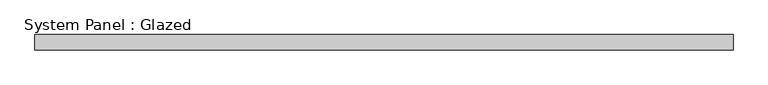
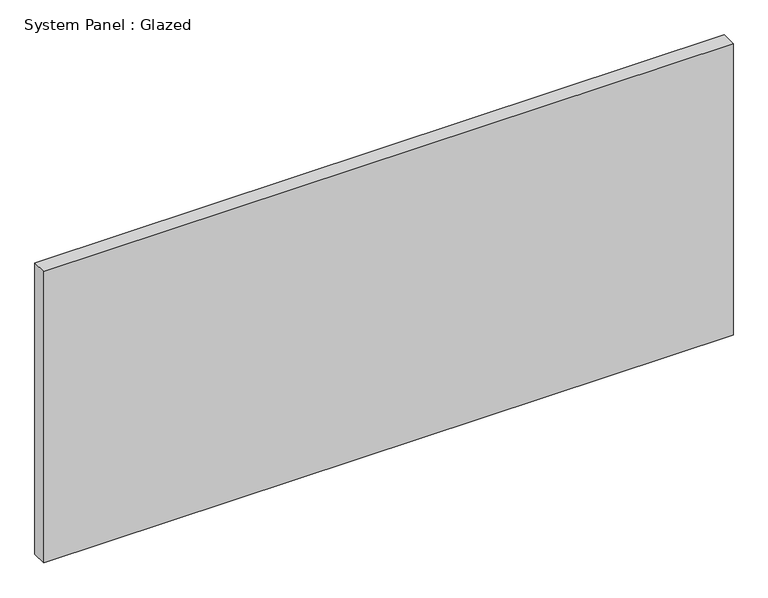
"""IFC4 building model written with IfcOpenShell, lengths in millimetres: plate geometry, System Panel : Glazed."""

from ifc_helpers import new_model, si_unit, origin, origin_with_axes, place, context, project, spatial, polyline, outline, extrude, source, transform, mapped, element, save


def system_panel_glazed_89e5f45a(model_context):
    return source(origin(), model_context, "Body", "SweptSolid", [
        extrude(outline(polyline([(575.3100001, 19.05), (-575.3100001, 19.05), (-575.3100001, 44.45), (575.3100001, 44.45), (575.3100001, 19.05)])), origin_with_axes(), (0.0, 0.0, 1.0), 514.35),
    ])


if __name__ == "__main__":
    model = new_model("IFC4")
    model_context = context("Model", 3, world=origin())
    ifc_project = project(units=[si_unit("LENGTHUNIT", "METRE", prefix="MILLI")], contexts=[model_context])
    site = spatial("IfcSite", under=ifc_project)
    building = spatial("IfcBuilding", under=site)
    placement = place(None, origin())
    system_panel_glazed_shape = system_panel_glazed_89e5f45a(model_context)
    element("IfcPlate", 1, ObjectType="System Panel : Glazed", at=placement, inside=building, context=model_context, shape_type="MappedRepresentation", body=[
        mapped(system_panel_glazed_shape, transform((0.0, 0.0, 0.0), x_axis=(1.0, 0.0, 0.0), y_axis=(0.0, 1.0, 0.0), z_axis=(0.0, 0.0, 1.0))),
    ])
    save(model, "model.ifc")
